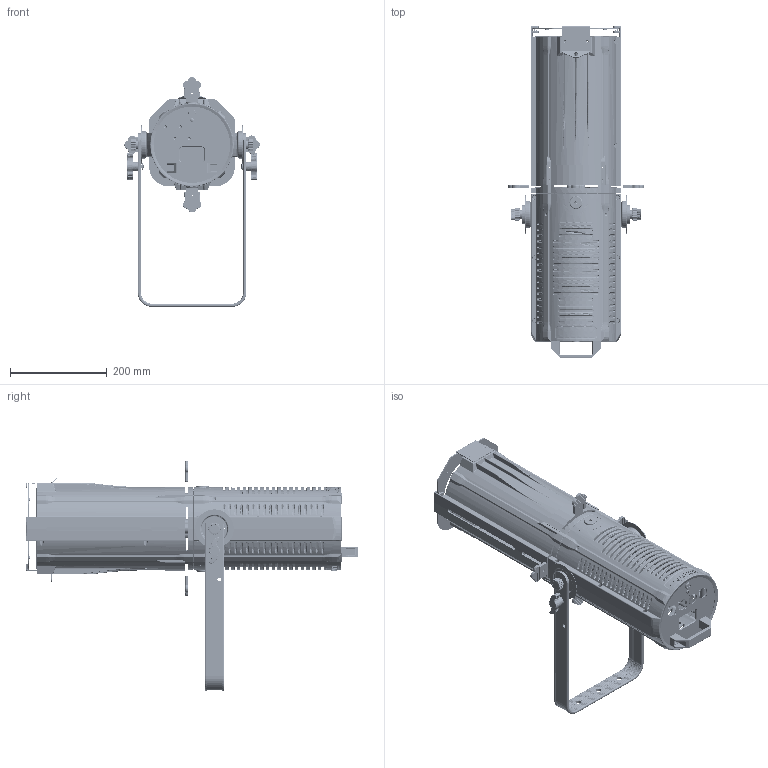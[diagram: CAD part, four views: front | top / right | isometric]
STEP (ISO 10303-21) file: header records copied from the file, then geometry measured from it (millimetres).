
FILE_DESCRIPTION((''),'2;1');
FILE_NAME('P3800001_ASM','2026-05-29T14:40:38',('ALY'),(''),'CREO PARAMETRIC BY PTC INC, 2022164','CREO PARAMETRIC BY PTC INC, 2022164','');
FILE_SCHEMA(('AUTOMOTIVE_DESIGN { 1 0 10303 214 1 1 1 1 }'));
Length unit declared in the file: millimetre
Products named in the file (35): CXD-AS; 300W0001; WK-CX; TSGD; 0002; BXSZ-A; BANJ-AE; DJP-A__-__________; 0004; TJ-A_-___________ASM; QG-1; TH-C; SLH-4; B0001; JBB-A; DGB-CX1; YSP-12; 0005; KJ-3; SPJ-5; SPJ-6; 00; 0003_ASM; DWEI-44; XY-80; TS-C; LS-F; XN-88; NY-S; TS-90; M4X16-0001; 0009; 69MM000; 0010; P3800001_ASM
Assembly tree (52 placements, depth 4):
  P3800001_ASM
    CXD-AS
    300W0001
    WK-CX  x2
    TSGD  x2
    0002
    BXSZ-A
    0003_ASM
      BANJ-AE
      TJ-A_-___________ASM  x4
        DJP-A__-__________
        0004
      QG-1
      TH-C  x4
      SLH-4  x5
      B0001
      JBB-A  x2
      DGB-CX1  x2
      YSP-12
      0005
      KJ-3
      SPJ-5
      SPJ-6
      00
    DWEI-44
    XY-80  x2
    TS-C
    LS-F  x2
    XN-88  x2
    NY-S  x2
    TS-90
    M4X16-0001
    0009
    69MM000
    0010
Bounding box: 279.94 x 686.5 x 475.47 mm (x, y, z)
Volume: 2016734.4 mm3; surface area: 1640320.3 mm2
Topology: 56 solids, 56 shells, 11451 faces, 29863 edges, 18374 vertices
Faces by surface type: plane 4479, cylinder 3162, bspline 2428, torus 726, cone 506, sphere 148, extrusion 2
Entity records: 331264 total; most frequent: CARTESIAN_POINT 129243, ORIENTED_EDGE 33536, DIRECTION 27104, EDGE_CURVE 16768, PRESENTATION_STYLE_ASSIGNMENT 16428, STYLED_ITEM 16240, CURVE_STYLE 16062, VERTEX_POINT 10361
